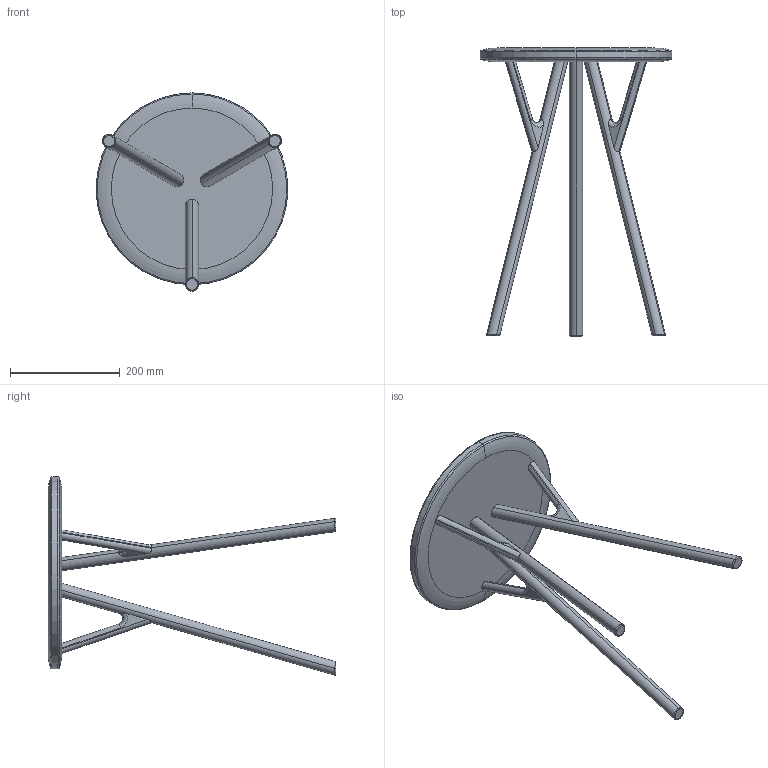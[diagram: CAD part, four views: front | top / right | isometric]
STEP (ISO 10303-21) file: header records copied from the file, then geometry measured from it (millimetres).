
FILE_DESCRIPTION (( 'STEP AP203' ), '1' );
FILE_NAME ('ORGANIC SIDE TABLE.STEP', '2023-05-08T11:05:35', ( '' ), ( '' ), 'SwSTEP 2.0', 'SolidWorks 2023', '' );
FILE_SCHEMA (( 'CONFIG_CONTROL_DESIGN' ));
Length unit declared in the file: millimetre
Products named in the file (2): ORGANIC SIDE TABLE; Group1^ORGANIC SIDE TABLE
Assembly tree (1 placements, depth 2):
  ORGANIC SIDE TABLE
    Group1^ORGANIC SIDE TABLE
Bounding box: 350 x 525 x 361.68 mm (x, y, z)
Volume: 3145470.6 mm3; surface area: 351074.1 mm2
Topology: 1 solids, 1 shells, 87 faces, 226 edges, 138 vertices
Faces by surface type: cylinder 35, plane 26, torus 14, bspline 12
Entity records: 3564 total; most frequent: CARTESIAN_POINT 1493, ORIENTED_EDGE 452, DIRECTION 350, EDGE_CURVE 226, VERTEX_POINT 138, AXIS2_PLACEMENT_3D 135, EDGE_LOOP 90, FACE_OUTER_BOUND 87
